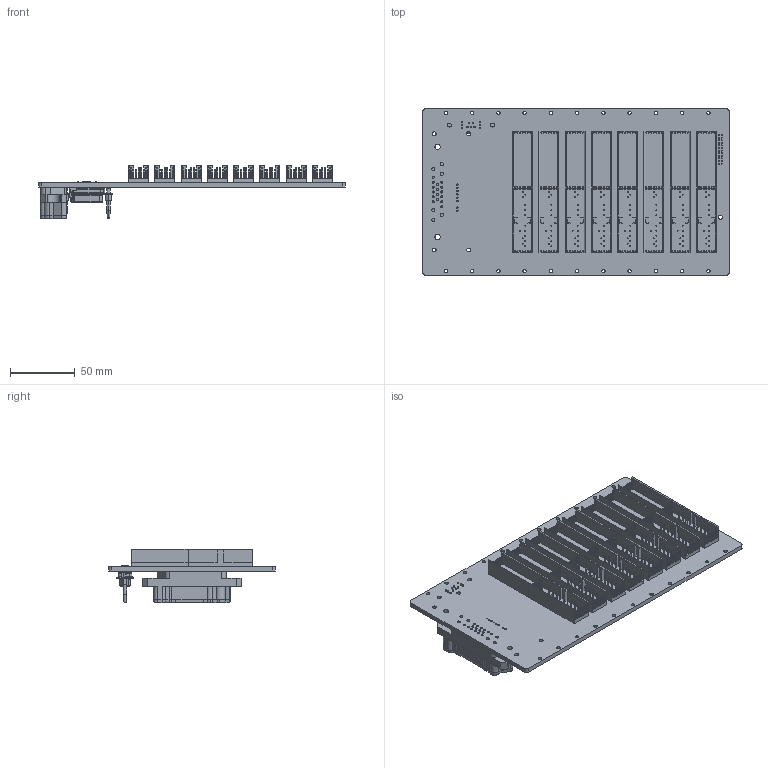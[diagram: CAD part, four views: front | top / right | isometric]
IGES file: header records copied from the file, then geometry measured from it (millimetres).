
Start section:  PTC IGES file: cu_pxi-8-slot_backplane.igs
Global section: file name: cu_pxi-8-slot_backplane.igs; native system: Pro/ENGINEER by Parametric Technology Corporation; preprocessor: 2010230; author: talbott; organization: Unknown; date: 20110817.145035; units: inch
Bounding box: 237.13 x 128.68 x 41.78 mm (x, y, z)
Surface area: 121636.4 mm2 (no closed solid volume)
Topology: 0 solids, 0 shells, 3166 faces, 13734 edges, 13734 vertices
Faces by surface type: revolution 1815, bspline 1351
